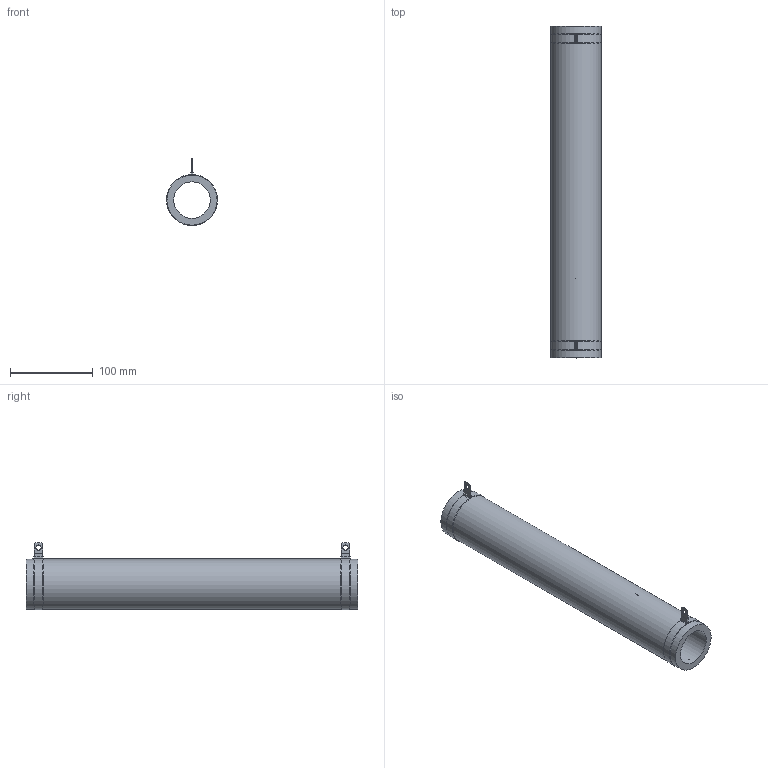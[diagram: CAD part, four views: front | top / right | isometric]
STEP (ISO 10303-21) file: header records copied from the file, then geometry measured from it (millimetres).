
FILE_DESCRIPTION(/* description */ (''),/* implementation_level */ '2;1');
FILE_NAME(/* name */ 'C:\_Vault\Dati\CATALOGO\RCA-RSA\25-1000\CA0800.stp',/* time_stamp */ '2014-01-22T15:32:34+01:00',/* author */ ('stefano'),/* organization */ (''),/* preprocessor_version */ 'ST-DEVELOPER v15.2',/* originating_system */ 'Autodesk Inventor 2014',/* authorisation */ '');
FILE_SCHEMA (('AUTOMOTIVE_DESIGN { 1 0 10303 214 3 1 1 }'));
Length unit declared in the file: millimetre
Products named in the file (1): CA0800
Bounding box: 61.47 x 400 x 81 mm (x, y, z)
Volume: 544243.1 mm3; surface area: 135201.3 mm2
Topology: 1 solids, 1 shells, 75 faces, 181 edges, 112 vertices
Faces by surface type: plane 35, cylinder 28, torus 12
Full cylindrical faces by diameter (mm): 4.2 x1, 6.3 x2, 44 x1, 60.5 x3
Entity records: 2326 total; most frequent: CARTESIAN_POINT 436, DIRECTION 388, ORIENTED_EDGE 344, EDGE_CURVE 172, AXIS2_PLACEMENT_3D 150, VERTEX_POINT 110, EDGE_LOOP 94, LINE 88
